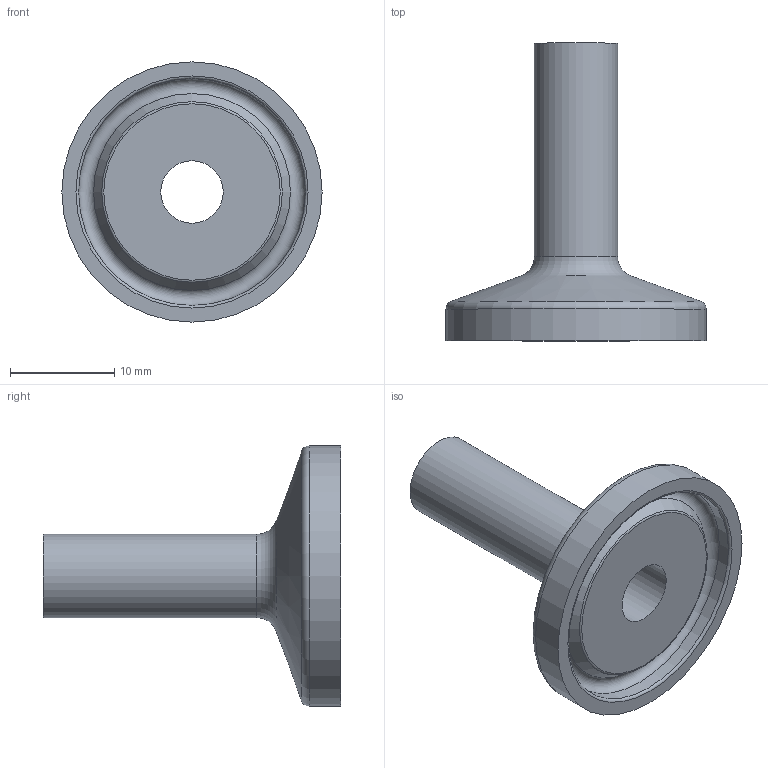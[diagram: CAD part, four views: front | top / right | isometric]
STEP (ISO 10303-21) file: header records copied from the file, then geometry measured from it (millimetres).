
FILE_DESCRIPTION(('Ferrule_8x1_L28,6_FL25_V12'),'2;1');
FILE_NAME('Ferrule_8x1_L28,6_FL25_V12.stp','2013-11-03T12:48:01',('DOCKWEILER AG'),('DOCKWEILER AG'),'Autodesk Inventor 2012','Autodesk Inventor 2012','');
FILE_SCHEMA(('CONFIG_CONTROL_DESIGN'));
Length unit declared in the file: millimetre
Products named in the file (1): N0003_003_001
Bounding box: 25 x 28.6 x 25 mm (x, y, z)
Volume: 2353.4 mm3; surface area: 2457.3 mm2
Topology: 1 solids, 1 shells, 14 faces, 25 edges, 14 vertices
Faces by surface type: torus 5, cylinder 4, plane 3, cone 2
Full cylindrical faces by diameter (mm): 6 x1, 8 x1, 21.8 x1, 25 x1
Entity records: 314 total; most frequent: DIRECTION 58, CARTESIAN_POINT 43, AXIS2_PLACEMENT_3D 29, ORIENTED_EDGE 28, EDGE_LOOP 28, VERTEX_POINT 14, CIRCLE 14, EDGE_CURVE 14
